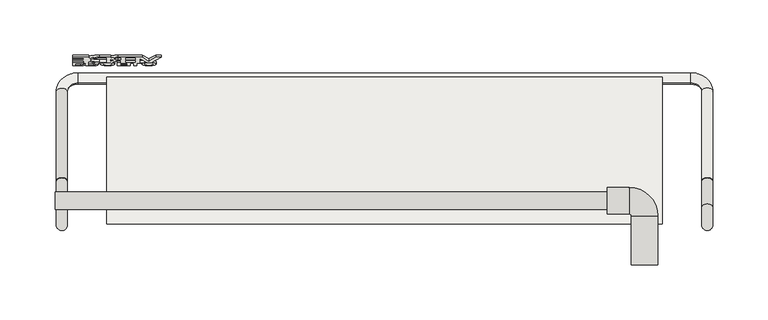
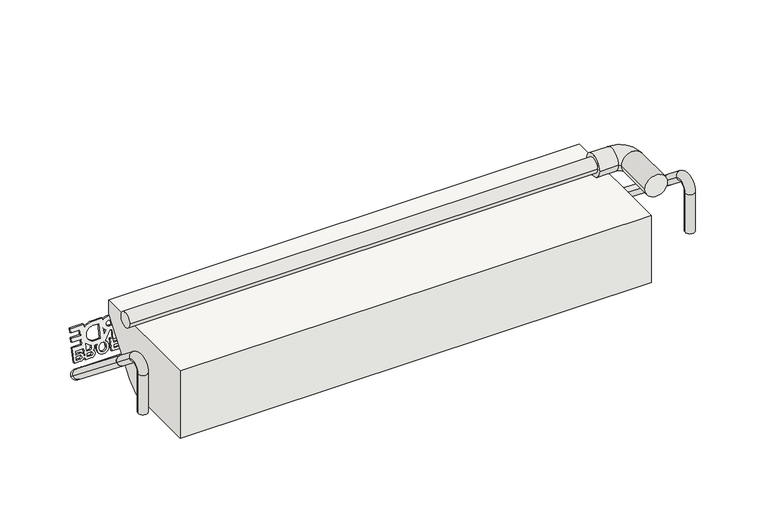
"""IFC4 building model written with IfcOpenShell, lengths in millimetres: covering geometry, panel VP Modulo prova ultima texture : panel VP Modulo prova ultima texture."""

from ifc_helpers import new_model, si_unit, point, frame, frame_2d, origin, place, context, project, spatial, polyline, circle_curve, ellipse_curve, trimmed, segment, composite_curve, outline, extrude, source, transform, mapped, element, save
from ifc_brep_helpers import plane_surface, cylinder_surface, revolved_surface, advanced_brep


def covering_791d1fb8(model_context):
    return source(origin(), model_context, "Body", "SolidModel", [
        extrude(outline(composite_curve([segment(polyline([(34.7220757, 1e-07), (58.7996812, 1e-07)]), True, "CONTINUOUS"), segment(trimmed(circle_curve(frame_2d((65.0642789, 0.6025231)), 6.293506), [point((58.7996812, 1e-07))], [point((63.4156114, 6.6762463))], False, "CARTESIAN"), True, "CONTINUOUS"), segment(trimmed(circle_curve(frame_2d((65.6666706, 0.6823429)), 6.4026671), [point((63.4156114, 6.6762463))], [point((68.2653756, -5.1692277))], False, "CARTESIAN"), True, "CONTINUOUS"), segment(trimmed(circle_curve(frame_2d((65.2033193, 0.2002614)), 6.1812298), [point((68.2653756, -5.1692277))], [point((64.2093266, -5.9005239))], False, "CARTESIAN"), True, "CONTINUOUS"), segment(polyline([(64.2093266, -5.9005239), (66.3168223, -11.0476864), (75.8016953, -7.1641235), (76.8622809, -9.7544045), (66.3136896, -14.0735049), (67.4636632, -16.8820993), (78.0122545, -12.5629989), (79.07284, -15.15328), (68.5242487, -19.4723803), (70.7348079, -24.8712558), (61.6931831, -28.5733316), (62.6270622, -30.8541559), (73.0748749, -33.0832315)]), True, "CONTINUOUS"), segment(trimmed(circle_curve(frame_2d((79.2445531, -34.0648778)), 6.247284), [point((73.0748749, -33.0832315))], [point((77.6263487, -28.0308102))], False, "CARTESIAN"), True, "CONTINUOUS"), segment(trimmed(circle_curve(frame_2d((79.8774079, -34.0247136)), 6.4026671), [point((77.6263487, -28.0308102))], [point((82.4790997, -39.8749568))], False, "CARTESIAN"), True, "CONTINUOUS"), segment(trimmed(circle_curve(frame_2d((79.4067188, -34.4842118)), 6.2048092), [point((82.4790997, -39.8749568))], [point((77.0112197, -40.2079554))], False, "CARTESIAN"), True, "CONTINUOUS"), segment(polyline([(77.0112197, -40.2079554), (78.1993614, -43.1097684)]), True, "CONTINUOUS"), segment(trimmed(circle_curve(frame_2d((66.5130173, -47.6019204)), 12.5199867), [point((78.1993614, -43.1097684))], [point((78.4709527, -43.8927629))], False, "CARTESIAN"), True, "CONTINUOUS"), segment(polyline([(78.4709527, -43.8927629), (79.5384706, -43.4513167)]), True, "CONTINUOUS"), segment(trimmed(circle_curve(frame_2d((81.1236563, -46.5289178)), 3.4618554), [point((79.5384706, -43.4513167))], [point((83.2640667, -43.8080566))], False, "CARTESIAN"), True, "CONTINUOUS"), segment(trimmed(circle_curve(frame_2d((86.9930545, -44.5041076)), 3.7933939), [point((83.2640667, -43.8080566))], [point((90.5427254, -43.1663205))], False, "CARTESIAN"), True, "CONTINUOUS"), segment(polyline([(90.5427254, -43.1663205), (93.2835773, -49.8603364), (82.734986, -54.1794368), (86.0955187, -62.3869066), (89.2825225, -61.0819941), (87.602256, -56.9782588)]), True, "CONTINUOUS"), segment(trimmed(circle_curve(frame_2d((91.2496311, -55.4763574)), 3.9444966), [point((87.602256, -56.9782588))], [point((87.6394876, -53.887044))], False, "CARTESIAN"), True, "CONTINUOUS"), segment(trimmed(circle_curve(frame_2d((91.0795376, -55.4029608)), 3.7592483), [point((87.6394876, -53.887044))], [point((89.8068057, -51.8657159))], False, "CARTESIAN"), True, "CONTINUOUS"), segment(trimmed(circle_curve(frame_2d((91.3826275, -55.3791794)), 3.8506675), [point((89.8068057, -51.8657159))], [point((94.9638436, -53.9640713))], False, "CARTESIAN"), True, "CONTINUOUS"), segment(polyline([(94.9638436, -53.9640713), (97.7046956, -60.6580873), (83.1186527, -66.6303144), (79.3291228, -57.3750995), (74.3249247, -59.4240587), (78.1144546, -68.6792737), (74.077003, -70.3324004), (70.2874731, -61.0771855), (65.283275, -63.1261447), (69.0728049, -72.3813597), (65.0353533, -74.0344865), (59.5536495, -60.6464545), (63.573194, -59.0006598)]), True, "CONTINUOUS"), segment(trimmed(circle_curve(frame_2d((67.4307018, -47.253167)), 12.364625), [point((63.573194, -59.0006598))], [point((55.9786182, -51.9151121))], False, "CARTESIAN"), True, "CONTINUOUS"), segment(polyline([(55.9786182, -51.9151121), (51.9745896, -42.1360244), (54.8949193, -40.940301)]), True, "CONTINUOUS"), segment(trimmed(circle_curve(frame_2d((56.8950264, -33.2916253)), 7.9058629), [point((54.8949193, -40.940301))], [point((49.6285766, -36.4063284))], False, "CARTESIAN"), True, "CONTINUOUS"), segment(polyline([(49.6285766, -36.4063284), (41.3068641, -16.0821087), (53.1289126, -4.45118), (36.5446028, -4.4511801), (34.7220757, 1e-07)]), True, "CONTINUOUS")], self_intersect=False), holes=[composite_curve([segment(polyline([(91.3698144, -60.2273564), (94.5568181, -58.9224439), (93.0429626, -55.2251362)]), True, "CONTINUOUS"), segment(trimmed(circle_curve(frame_2d((91.4494608, -55.8775924)), 1.7219023), [point((93.0429626, -55.2251362))], [point((89.8559588, -56.5300487))], True, "CARTESIAN"), True, "CONTINUOUS"), segment(polyline([(89.8559588, -56.5300487), (91.3698144, -60.2273564)]), True, "CONTINUOUS")], self_intersect=False), composite_curve([segment(polyline([(77.6536646, -53.2354383), (84.8614042, -50.2842432), (83.4804082, -46.9114198)]), True, "CONTINUOUS"), segment(trimmed(circle_curve(frame_2d((82.0055188, -47.9798171)), 1.8212006), [point((83.4804082, -46.9114198))], [point((81.4459172, -46.2467223))], True, "CARTESIAN"), True, "CONTINUOUS"), segment(polyline([(81.4459172, -46.2467223), (79.005401, -46.7813864)]), True, "CONTINUOUS"), segment(trimmed(circle_curve(frame_2d((66.800009, -47.5936694)), 12.2323913), [point((79.005401, -46.7813864))], [point((77.6536646, -53.2354383))], False, "CARTESIAN"), True, "CONTINUOUS")], self_intersect=False), composite_curve([segment(polyline([(80.0469884, -37.8463889), (81.818283, -37.1211357)]), True, "CONTINUOUS"), segment(trimmed(circle_curve(frame_2d((80.3714599, -33.822414)), 3.6020635), [point((81.818283, -37.1211357))], [point((79.0874461, -30.4569764))], True, "CARTESIAN"), True, "CONTINUOUS"), segment(polyline([(79.0874461, -30.4569764), (77.318043, -31.1814551)]), True, "CONTINUOUS"), segment(trimmed(circle_curve(frame_2d((78.7640582, -34.4805345)), 3.6020668), [point((77.318043, -31.1814551))], [point((80.0469884, -37.8463889))], True, "CARTESIAN"), True, "CONTINUOUS")], self_intersect=False), composite_curve([segment(polyline([(64.8767089, 4.25008), (63.1073057, 3.5256013)]), True, "CONTINUOUS"), segment(trimmed(circle_curve(frame_2d((64.5533209, 0.2265218)), 3.6020668), [point((63.1073057, 3.5256013))], [point((65.8362511, -3.1393325))], True, "CARTESIAN"), True, "CONTINUOUS"), segment(polyline([(65.8362511, -3.1393325), (67.6075457, -2.4140793)]), True, "CONTINUOUS"), segment(trimmed(circle_curve(frame_2d((66.1607226, 0.8846424)), 3.6020635), [point((67.6075457, -2.4140793))], [point((64.8767089, 4.25008))], True, "CARTESIAN"), True, "CONTINUOUS")], self_intersect=False), composite_curve([segment(polyline([(49.3862171, -14.3776131), (62.966359, -8.8172502), (61.7031824, -5.7321785), (62.543491, -5.3881158)]), True, "CONTINUOUS"), segment(trimmed(circle_curve(frame_2d((65.2914897, 0.489271)), 6.4880792), [point((62.543491, -5.3881158))], [point((60.2929855, -3.647168))], False, "CARTESIAN"), True, "CONTINUOUS"), segment(polyline([(60.2929855, -3.647168), (49.3862171, -14.3776131)]), True, "CONTINUOUS")], self_intersect=False), polyline([(47.5988019, -19.9351411), (50.9593346, -28.1426109), (55.9635327, -26.0936517), (52.603, -17.8861818), (47.5988019, -19.9351411)]), polyline([(60.0009843, -24.4405249), (65.0051824, -22.3915657), (61.6446497, -14.1840958), (56.6404516, -16.2330551), (60.0009843, -24.4405249)]), composite_curve([segment(polyline([(52.6514048, -32.2754702), (53.692025, -34.8169896)]), True, "CONTINUOUS"), segment(trimmed(circle_curve(frame_2d((56.226554, -33.8697215)), 2.7057631), [point((53.692025, -34.8169896))], [point((58.6823172, -32.7337722))], True, "CARTESIAN"), True, "CONTINUOUS"), segment(polyline([(58.6823172, -32.7337722), (57.6557066, -30.2264686), (52.6514048, -32.2754702)]), True, "CONTINUOUS")], self_intersect=False), composite_curve([segment(polyline([(62.0018449, -38.0303841), (66.4600603, -36.2049764), (63.0935891, -35.4866796)]), True, "CONTINUOUS"), segment(trimmed(circle_curve(frame_2d((53.8245828, -33.0146099)), 9.5929977), [point((63.0935891, -35.4866796))], [point((62.0018449, -38.0303841))], False, "CARTESIAN"), True, "CONTINUOUS")], self_intersect=False), composite_curve([segment(polyline([(57.7042151, -44.6157146), (60.0160697, -50.2619853)]), True, "CONTINUOUS"), segment(trimmed(circle_curve(frame_2d((67.1061304, -47.5504315)), 7.5908816), [point((60.0160697, -50.2619853))], [point((74.0619175, -44.51094))], True, "CARTESIAN"), True, "CONTINUOUS"), segment(polyline([(74.0619175, -44.51094), (71.7500629, -38.8646693), (57.7042151, -44.6157146)]), True, "CONTINUOUS")], self_intersect=False), composite_curve([segment(polyline([(86.9486961, -49.4296056), (90.1356999, -48.124693), (88.6218444, -44.4273853)]), True, "CONTINUOUS"), segment(trimmed(circle_curve(frame_2d((87.0283425, -45.0798416)), 1.7219023), [point((88.6218444, -44.4273853))], [point((85.4348406, -45.7322979))], True, "CARTESIAN"), True, "CONTINUOUS"), segment(polyline([(85.4348406, -45.7322979), (86.9486961, -49.4296056)]), True, "CONTINUOUS")], self_intersect=False)]), frame((-189.083657, 210.3688908, 531.9514609), z_axis=(0.0, -0.9769248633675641, 0.21358326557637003), x_axis=(-0.3789159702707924, -0.19765659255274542, -0.9040766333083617)), (0.0, 0.0, 1.0), 2.0),
        extrude(outline(polyline([(76.2116946, -23.2064962), (79.3986984, -21.9015837), (77.1881392, -16.5027082), (79.2754311, -15.6480706), (82.5465758, -23.6372272), (70.9744162, -28.3754256), (69.9138306, -25.7851445), (74.1244027, -24.0611338), (71.9138436, -18.6622584), (74.0011355, -17.8076208), (76.2116946, -23.2064962)])), frame((-189.083657, 210.3688908, 531.9514609), z_axis=(0.0, -0.9769248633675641, 0.21358326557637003), x_axis=(-0.3789159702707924, -0.19765659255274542, -0.9040766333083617)), (0.0, 0.0, 1.0), 2.0),
        advanced_brep(
        [(-298.2404059, 63.5015434, 595.6614448), (-298.2404059, 79.5015434, 595.6614448), (201.5404059, 63.5015434, 595.6614448), (201.5404059, 79.5015434, 595.6614448), (201.5404059, 59.5015434, 595.6614448), (201.5404059, 83.5015434, 595.6614448), (221.5404059, 59.5015434, 595.6614448), (221.5404059, 83.5015434, 595.6614448), (223.5404059, 57.5015434, 595.6614448), (247.5404059, 57.5015434, 595.6614448), (223.5404059, 13.5015434, 595.6614448), (247.5404059, 13.5015434, 595.6614448)],
        [
            (0, 1, circle_curve(frame((-298.2404059, 71.5015434, 595.6614448), z_axis=(-1.0, 0.0, 0.0), x_axis=(0.0, 1.0, 0.0)), 8.0)),
            (1, 0, circle_curve(frame((-298.2404059, 71.5015434, 595.6614448), z_axis=(-1.0, 0.0, 0.0), x_axis=(0.0, 1.0, 0.0)), 8.0)),
            (0, 2),
            (2, 3, circle_curve(frame((201.5404059, 71.5015434, 595.6614448), z_axis=(-1.0, 0.0, 0.0), x_axis=(0.0, 1.0, 0.0)), 8.0)),
            (3, 1),
            (3, 2, circle_curve(frame((201.5404059, 71.5015434, 595.6614448), z_axis=(-1.0, 0.0, 0.0), x_axis=(0.0, 1.0, 0.0)), 8.0)),
            (4, 5, circle_curve(frame((201.5404059, 71.5015434, 595.6614448), z_axis=(-1.0, 0.0, 0.0), x_axis=(0.0, 1.0, 0.0)), 12.0)),
            (5, 4, circle_curve(frame((201.5404059, 71.5015434, 595.6614448), z_axis=(-1.0, 0.0, 0.0), x_axis=(0.0, 1.0, 0.0)), 12.0)),
            (4, 6),
            (6, 7, circle_curve(frame((221.5404059, 71.5015434, 595.6614448), z_axis=(-1.0, 0.0, 0.0), x_axis=(0.0, 1.0, 0.0)), 12.0)),
            (7, 5),
            (7, 6, circle_curve(frame((221.5404059, 71.5015434, 595.6614448), z_axis=(-1.0, 0.0, 0.0), x_axis=(0.0, 1.0, 0.0)), 12.0)),
            (6, 8, circle_curve(frame((221.5404059, 57.5015434, 595.6614448), z_axis=(0.0, 0.0, -1.0), x_axis=(0.0, 1.0, 0.0)), 2.0)),
            (8, 9, circle_curve(frame((235.5404059, 57.5015434, 595.6614448), z_axis=(0.0, 1.0, 0.0), x_axis=(1.0, 0.0, 0.0)), 12.0)),
            (9, 7, circle_curve(frame((221.5404059, 57.5015434, 595.6614448), z_axis=(0.0, 0.0, 1.0), x_axis=(0.0, 1.0, 0.0)), 26.0)),
            (9, 8, circle_curve(frame((235.5404059, 57.5015434, 595.6614448), z_axis=(0.0, 1.0, 0.0), x_axis=(1.0, 0.0, 0.0)), 12.0)),
            (10, 11, circle_curve(frame((235.5404059, 13.5015434, 595.6614448), z_axis=(0.0, -1.0, 0.0), x_axis=(1.0, 0.0, 0.0)), 12.0)),
            (11, 10, circle_curve(frame((235.5404059, 13.5015434, 595.6614448), z_axis=(0.0, -1.0, 0.0), x_axis=(1.0, 0.0, 0.0)), 12.0)),
            (8, 10),
            (11, 9),
        ],
        [
            plane_surface(frame((-298.2404059, 63.5015434, 595.6614448), z_axis=(-1.0, 0.0, 0.0), x_axis=(0.0, 0.0, 1.0))),
            cylinder_surface(frame((-298.2404059, 71.5015434, 595.6614448), z_axis=(-1.0, 0.0, 0.0), x_axis=(0.0, 1.0, 0.0)), 8.0),
            plane_surface(frame((201.5404059, 63.5015434, 595.6614448), z_axis=(-1.0, 0.0, 0.0), x_axis=(0.0, 0.0, 1.0))),
            cylinder_surface(frame((201.5404059, 71.5015434, 595.6614448), z_axis=(-1.0, 0.0, 0.0), x_axis=(0.0, 1.0, 0.0)), 12.0),
            revolved_surface(trimmed(ellipse_curve(frame((221.5404059, 71.5015434, 595.6614448), z_axis=(-1.0, 0.0, 0.0), x_axis=(0.0, 1.0, 0.0)), 12.0, 12.0), [point((221.5404059, 59.5015434, 595.6614448))], [point((221.5404059, 83.5015434, 595.6614448))], True, "CARTESIAN"), (221.5404059, 57.5015434, 595.6614448), (0.0, 0.0, -1.0)),
            revolved_surface(trimmed(ellipse_curve(frame((221.5404059, 71.5015434, 595.6614448), z_axis=(-1.0, 0.0, 0.0), x_axis=(0.0, 1.0, 0.0)), 12.0, 12.0), [point((221.5404059, 83.5015434, 595.6614448))], [point((221.5404059, 59.5015434, 595.6614448))], True, "CARTESIAN"), (221.5404059, 57.5015434, 595.6614448), (0.0, 0.0, -1.0)),
            plane_surface(frame((227.5404059, 13.5015434, 595.6614448), z_axis=(0.0, -1.0, 0.0), x_axis=(0.0, 0.0, 1.0))),
            cylinder_surface(frame((235.5404059, 57.5015434, 595.6614448), z_axis=(0.0, 1.0, 0.0), x_axis=(1.0, 0.0, 0.0)), 12.0),
        ],
        [
            (0, [[1, 2]]),
            (1, [[-1, 3, 4, 5]]),
            (1, [[-2, -5, 6, -3]]),
            (2, [[7, 8], [-4, -6]]),
            (3, [[-7, 9, 10, 11]]),
            (3, [[-8, -11, 12, -9]]),
            (4, [[-10, 13, 14, 15]]),
            (5, [[-12, -15, 16, -13]]),
            (6, [[17, 18]]),
            (7, [[-14, 19, -18, 20]]),
            (7, [[-16, -20, -17, -19]]),
        ],
    ),
        advanced_brep(
        [(297.2404059, 89.2250572, 536.4633866), (287.2404059, 89.2251428, 536.4634946), (297.2404059, 170.6491384, 471.9435416), (287.2404059, 170.6492239, 471.9436496), (277.2404059, 178.4869122, 465.7331229), (277.2404059, 186.324515, 459.5224882), (-277.2404059, 186.324515, 459.5224882), (-277.2404059, 178.4869122, 465.7331229), (-287.2404059, 170.6492239, 471.9436496), (-297.2404059, 170.6491384, 471.9435416), (-297.2404059, 89.2250494, 536.4633928), (-287.2404059, 89.225135, 536.4635008)],
        [
            (0, 1, circle_curve(frame((292.2404059, 89.2250572, 536.4633866), z_axis=(0.0, -0.7837688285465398, 0.6210526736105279), x_axis=(1.0, 0.0, 0.0)), 5.0)),
            (1, 0, circle_curve(frame((292.2404059, 89.2250572, 536.4633866), z_axis=(0.0, -0.7837688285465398, 0.6210526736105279), x_axis=(1.0, 0.0, 0.0)), 5.0)),
            (0, 2),
            (2, 3, circle_curve(frame((292.2404059, 170.6491384, 471.9435416), z_axis=(0.0, -0.7837688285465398, 0.6210526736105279), x_axis=(1.0, 0.0, 0.0)), 5.0)),
            (3, 1),
            (3, 2, circle_curve(frame((292.2404059, 170.6491384, 471.9435416), z_axis=(0.0, -0.7837688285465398, 0.6210526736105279), x_axis=(1.0, 0.0, 0.0)), 5.0)),
            (4, 3, circle_curve(frame((277.2404059, 170.6492239, 471.9436496), z_axis=(0.0, -0.6210526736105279, -0.7837688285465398), x_axis=(1.0, 0.0, 0.0)), 10.0)),
            (2, 5, circle_curve(frame((277.2404059, 170.6491384, 471.9435416), z_axis=(0.0, 0.6210526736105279, 0.7837688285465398), x_axis=(1.0, 0.0, 0.0)), 20.0)),
            (5, 4, circle_curve(frame((277.2404059, 182.4056708, 462.6277515), z_axis=(1.0, 0.0, 0.0), x_axis=(0.0, 0.7837688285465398, -0.6210526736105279)), 5.0)),
            (4, 5, circle_curve(frame((277.2404059, 182.4056708, 462.6277515), z_axis=(1.0, 0.0, 0.0), x_axis=(0.0, 0.7837688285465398, -0.6210526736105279)), 5.0)),
            (5, 6),
            (6, 7, circle_curve(frame((-277.2404059, 182.4056708, 462.6277515), z_axis=(1.0, 0.0, 0.0), x_axis=(0.0, 0.7837688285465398, -0.6210526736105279)), 5.0)),
            (7, 4),
            (7, 6, circle_curve(frame((-277.2404059, 182.4056708, 462.6277515), z_axis=(1.0, 0.0, 0.0), x_axis=(0.0, 0.7837688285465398, -0.6210526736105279)), 5.0)),
            (8, 7, circle_curve(frame((-277.2404059, 170.6492239, 471.9436496), z_axis=(0.0, -0.6210526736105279, -0.7837688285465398), x_axis=(0.0, 0.7837688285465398, -0.6210526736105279)), 10.0)),
            (6, 9, circle_curve(frame((-277.2404059, 170.6491384, 471.9435416), z_axis=(0.0, 0.6210526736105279, 0.7837688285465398), x_axis=(0.0, 0.7837688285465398, -0.6210526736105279)), 20.0)),
            (9, 8, circle_curve(frame((-292.2404059, 170.6491384, 471.9435416), z_axis=(0.0, 0.7837688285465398, -0.6210526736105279), x_axis=(-1.0000000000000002, 0.0, 0.0)), 5.0)),
            (8, 9, circle_curve(frame((-292.2404059, 170.6491384, 471.9435416), z_axis=(0.0, 0.7837688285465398, -0.6210526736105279), x_axis=(-1.0000000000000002, 0.0, 0.0)), 5.0)),
            (10, 11, circle_curve(frame((-292.2404059, 89.2250494, 536.4633928), z_axis=(0.0, -0.7837688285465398, 0.6210526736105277), x_axis=(-1.0, 0.0, 0.0)), 5.0)),
            (11, 10, circle_curve(frame((-292.2404059, 89.2250494, 536.4633928), z_axis=(0.0, -0.7837688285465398, 0.6210526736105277), x_axis=(-1.0, 0.0, 0.0)), 5.0)),
            (9, 10),
            (11, 8),
        ],
        [
            plane_surface(frame((287.2404059, 92.3304015, 540.3823329), z_axis=(0.0, -0.7837688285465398, 0.6210526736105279), x_axis=(0.0, -0.6210526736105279, -0.7837688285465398))),
            cylinder_surface(frame((292.2404059, 89.2250572, 536.4633866), z_axis=(0.0, -0.7837688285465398, 0.6210526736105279), x_axis=(1.0, 0.0, 0.0)), 5.0),
            revolved_surface(trimmed(ellipse_curve(frame((292.2404059, 170.6491384, 471.9435416), z_axis=(0.0, -0.7837688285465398, 0.6210526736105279), x_axis=(1.0, 0.0, 0.0)), 5.0, 5.0), [point((297.2404059, 170.6491384, 471.9435416))], [point((287.2404059, 170.6492239, 471.9436496))], True, "CARTESIAN"), (277.2404059, 173.7544827, 475.8624879), (0.0, 0.6210526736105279, 0.7837688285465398)),
            revolved_surface(trimmed(ellipse_curve(frame((292.2404059, 170.6491384, 471.9435416), z_axis=(0.0, -0.7837688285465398, 0.6210526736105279), x_axis=(1.0, 0.0, 0.0)), 5.0, 5.0), [point((287.2404059, 170.6492239, 471.9436496))], [point((297.2404059, 170.6491384, 471.9435416))], True, "CARTESIAN"), (277.2404059, 173.7544827, 475.8624879), (0.0, 0.6210526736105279, 0.7837688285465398)),
            cylinder_surface(frame((277.2404059, 182.4056708, 462.6277515), z_axis=(1.0000000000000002, 0.0, 0.0), x_axis=(0.0, 0.7837688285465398, -0.6210526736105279)), 5.0),
            revolved_surface(trimmed(ellipse_curve(frame((-277.2404059, 182.4056708, 462.6277515), z_axis=(1.0000000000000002, 0.0, 0.0), x_axis=(0.0, 0.7837688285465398, -0.6210526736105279)), 5.0, 5.0), [point((-277.2404059, 186.324515, 459.5224882))], [point((-277.2404059, 178.4869122, 465.7331229))], True, "CARTESIAN"), (-277.2404059, 173.7544827, 475.8624879), (0.0, 0.6210526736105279, 0.7837688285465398)),
            revolved_surface(trimmed(ellipse_curve(frame((-277.2404059, 182.4056708, 462.6277515), z_axis=(1.0000000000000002, 0.0, 0.0), x_axis=(0.0, 0.7837688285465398, -0.6210526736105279)), 5.0, 5.0), [point((-277.2404059, 178.4869122, 465.7331229))], [point((-277.2404059, 186.324515, 459.5224882))], True, "CARTESIAN"), (-277.2404059, 173.7544827, 475.8624879), (0.0, 0.6210526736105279, 0.7837688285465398)),
            plane_surface(frame((-287.2404059, 92.3303937, 540.3823391), z_axis=(0.0, -0.7837688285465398, 0.6210526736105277), x_axis=(0.0, -0.6210526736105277, -0.7837688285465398))),
            cylinder_surface(frame((-292.2404059, 170.6491384, 471.9435416), z_axis=(0.0, 0.7837688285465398, -0.6210526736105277), x_axis=(-1.0, 0.0, 0.0)), 5.0),
        ],
        [
            (0, [[1, 2]]),
            (1, [[-1, 3, 4, 5]]),
            (1, [[-2, -5, 6, -3]]),
            (2, [[7, -4, 8, 9]]),
            (3, [[-8, -6, -7, 10]]),
            (4, [[-9, 11, 12, 13]]),
            (4, [[-10, -13, 14, -11]]),
            (5, [[15, -12, 16, 17]]),
            (6, [[-16, -14, -15, 18]]),
            (7, [[19, 20]]),
            (8, [[-17, 21, -20, 22]]),
            (8, [[-18, -22, -19, -21]]),
        ],
    ),
        advanced_brep(
        [(-287.2404059, 89.225135, 536.4635008), (-297.2404059, 89.225135, 536.4635008), (-297.2404059, 65.7120701, 555.095081), (-287.2404059, 65.7120701, 555.095081), (-287.2404059, 49.5015434, 547.2573927), (-297.2404059, 49.5015434, 547.2573927), (-287.2404059, 49.5015434, 502.9552474), (-297.2404059, 49.5015434, 502.9552474)],
        [
            (0, 1, circle_curve(frame((-292.2404059, 89.225135, 536.4635008), z_axis=(0.0, 0.7837688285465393, -0.6210526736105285), x_axis=(-1.0, 0.0, 0.0)), 5.0)),
            (1, 0, circle_curve(frame((-292.2404059, 89.225135, 536.4635008), z_axis=(0.0, 0.7837688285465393, -0.6210526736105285), x_axis=(-1.0, 0.0, 0.0)), 5.0)),
            (1, 2),
            (2, 3, circle_curve(frame((-292.2404059, 65.7120701, 555.095081), z_axis=(0.0, 0.7837688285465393, -0.6210526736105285), x_axis=(-1.0, 0.0, 0.0)), 5.0)),
            (3, 0),
            (3, 2, circle_curve(frame((-292.2404059, 65.7120701, 555.095081), z_axis=(0.0, 0.7837688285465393, -0.6210526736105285), x_axis=(-1.0, 0.0, 0.0)), 5.0)),
            (4, 3, circle_curve(frame((-287.2404059, 59.5015434, 547.2573927), z_axis=(-1.0, 0.0, 0.0), x_axis=(0.0, 0.6210526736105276, 0.78376882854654)), 10.0)),
            (2, 5, circle_curve(frame((-297.2404059, 59.5015434, 547.2573927), z_axis=(1.0, 0.0, 0.0), x_axis=(0.0, 0.6210526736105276, 0.78376882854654)), 10.0)),
            (5, 4, circle_curve(frame((-292.2404059, 49.5015434, 547.2573927), z_axis=(0.0, 0.0, 1.0), x_axis=(-1.0, 0.0, 0.0)), 5.0)),
            (4, 5, circle_curve(frame((-292.2404059, 49.5015434, 547.2573927), z_axis=(0.0, 0.0, 1.0), x_axis=(-1.0, 0.0, 0.0)), 5.0)),
            (6, 7, circle_curve(frame((-292.2404059, 49.5015434, 502.9552474), z_axis=(0.0, 0.0, -1.0), x_axis=(-1.0, 0.0, 0.0)), 5.0)),
            (7, 6, circle_curve(frame((-292.2404059, 49.5015434, 502.9552474), z_axis=(0.0, 0.0, -1.0), x_axis=(-1.0, 0.0, 0.0)), 5.0)),
            (5, 7),
            (6, 4),
        ],
        [
            plane_surface(frame((-287.2404059, 89.225135, 536.4635008), z_axis=(0.0, 0.7837688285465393, -0.6210526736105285), x_axis=(-1.0, 0.0, 0.0))),
            cylinder_surface(frame((-292.2404059, 89.225135, 536.4635008), z_axis=(0.0, 0.7837688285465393, -0.6210526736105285), x_axis=(-1.0, 0.0, 0.0)), 5.0),
            revolved_surface(trimmed(ellipse_curve(frame((-292.2404059, 65.7120701, 555.095081), z_axis=(0.0, 0.78376882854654, -0.6210526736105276), x_axis=(-1.0, 0.0, 0.0)), 5.0, 5.0), [point((-297.2404059, 65.7120701, 555.095081))], [point((-287.2404059, 65.7120701, 555.095081))], True, "CARTESIAN"), (-287.2404059, 59.5015434, 547.2573927), (1.0, 0.0, 0.0)),
            revolved_surface(trimmed(ellipse_curve(frame((-292.2404059, 65.7120701, 555.095081), z_axis=(0.0, 0.78376882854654, -0.6210526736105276), x_axis=(-1.0, 0.0, 0.0)), 5.0, 5.0), [point((-287.2404059, 65.7120701, 555.095081))], [point((-297.2404059, 65.7120701, 555.095081))], True, "CARTESIAN"), (-287.2404059, 59.5015434, 547.2573927), (1.0, 0.0, 0.0)),
            plane_surface(frame((-287.2404059, 49.5015434, 502.9552474), z_axis=(0.0, 0.0, -1.0), x_axis=(-1.0, 0.0, 0.0))),
            cylinder_surface(frame((-292.2404059, 49.5015434, 547.2573927), z_axis=(0.0, 0.0, 1.0), x_axis=(-1.0, 0.0, 0.0)), 5.0),
        ],
        [
            (0, [[1, 2]]),
            (1, [[-2, 3, 4, 5]]),
            (1, [[-1, -5, 6, -3]]),
            (2, [[7, -4, 8, 9]]),
            (3, [[-8, -6, -7, 10]]),
            (4, [[11, 12]]),
            (5, [[-9, 13, -11, 14]]),
            (5, [[-10, -14, -12, -13]]),
        ],
    ),
        advanced_brep(
        [(287.2404059, 89.2251242, 536.4634711), (297.2404059, 89.2251242, 536.4634711), (287.2404059, 65.7120779, 555.0950748), (297.2404059, 65.7120779, 555.0950748), (297.2404059, 49.5015434, 547.2573927), (287.2404059, 49.5015434, 547.2573927), (287.2404059, 49.5015434, 502.9552474), (297.2404059, 49.5015434, 502.9552474)],
        [
            (0, 1, circle_curve(frame((292.2404059, 89.2251242, 536.4634711), z_axis=(0.0, 0.7837682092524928, -0.621053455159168), x_axis=(1.0, 0.0, 0.0)), 5.0)),
            (1, 0, circle_curve(frame((292.2404059, 89.2251242, 536.4634711), z_axis=(0.0, 0.7837682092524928, -0.621053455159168), x_axis=(1.0, 0.0, 0.0)), 5.0)),
            (0, 2),
            (2, 3, circle_curve(frame((292.2404059, 65.7120779, 555.0950748), z_axis=(0.0, 0.7837682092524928, -0.621053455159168), x_axis=(1.0, 0.0, 0.0)), 5.0)),
            (3, 1),
            (3, 2, circle_curve(frame((292.2404059, 65.7120779, 555.0950748), z_axis=(0.0, 0.7837682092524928, -0.621053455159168), x_axis=(1.0, 0.0, 0.0)), 5.0)),
            (4, 3, circle_curve(frame((297.2404059, 59.5015434, 547.2573927), z_axis=(-1.0, 0.0, 0.0), x_axis=(0.0, 0.6210534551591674, 0.7837682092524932)), 10.0)),
            (2, 5, circle_curve(frame((287.2404059, 59.5015434, 547.2573927), z_axis=(1.0, 0.0, 0.0), x_axis=(0.0, 0.6210534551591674, 0.7837682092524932)), 10.0)),
            (5, 4, circle_curve(frame((292.2404059, 49.5015434, 547.2573927), z_axis=(0.0, 0.0, 1.0), x_axis=(1.0, 0.0, 0.0)), 5.0)),
            (4, 5, circle_curve(frame((292.2404059, 49.5015434, 547.2573927), z_axis=(0.0, 0.0, 1.0), x_axis=(1.0, 0.0, 0.0)), 5.0)),
            (6, 7, circle_curve(frame((292.2404059, 49.5015434, 502.9552474), z_axis=(0.0, 0.0, -1.0), x_axis=(1.0, 0.0, 0.0)), 5.0)),
            (7, 6, circle_curve(frame((292.2404059, 49.5015434, 502.9552474), z_axis=(0.0, 0.0, -1.0), x_axis=(1.0, 0.0, 0.0)), 5.0)),
            (5, 6),
            (7, 4),
        ],
        [
            plane_surface(frame((287.2404059, 89.2251242, 536.4634711), z_axis=(0.0, 0.7837682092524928, -0.621053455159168), x_axis=(1.0, 0.0, 0.0))),
            cylinder_surface(frame((292.2404059, 89.2251242, 536.4634711), z_axis=(0.0, 0.7837682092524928, -0.621053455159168), x_axis=(1.0, 0.0, 0.0)), 5.0),
            revolved_surface(trimmed(ellipse_curve(frame((292.2404059, 65.7120779, 555.0950748), z_axis=(0.0, 0.7837682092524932, -0.6210534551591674), x_axis=(1.0, 0.0, 0.0)), 5.0, 5.0), [point((287.2404059, 65.7120779, 555.0950748))], [point((297.2404059, 65.7120779, 555.0950748))], True, "CARTESIAN"), (287.2404059, 59.5015434, 547.2573927), (1.0, 0.0, 0.0)),
            revolved_surface(trimmed(ellipse_curve(frame((292.2404059, 65.7120779, 555.0950748), z_axis=(0.0, 0.7837682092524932, -0.6210534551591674), x_axis=(1.0, 0.0, 0.0)), 5.0, 5.0), [point((297.2404059, 65.7120779, 555.0950748))], [point((287.2404059, 65.7120779, 555.0950748))], True, "CARTESIAN"), (287.2404059, 59.5015434, 547.2573927), (1.0, 0.0, 0.0)),
            plane_surface(frame((287.2404059, 49.5015434, 502.9552474), z_axis=(0.0, 0.0, -1.0), x_axis=(1.0, 0.0, 0.0))),
            cylinder_surface(frame((292.2404059, 49.5015434, 547.2573927), z_axis=(0.0, 0.0, 1.0), x_axis=(1.0, 0.0, 0.0)), 5.0),
        ],
        [
            (0, [[1, 2]]),
            (1, [[-1, 3, 4, 5]]),
            (1, [[-2, -5, 6, -3]]),
            (2, [[7, -4, 8, 9]]),
            (3, [[-8, -6, -7, 10]]),
            (4, [[11, 12]]),
            (5, [[-9, 13, -12, 14]]),
            (5, [[-10, -14, -11, -13]]),
        ],
    ),
        extrude(outline(polyline([(132.1625373, 458.0017812), (50.5015434, 458.0017812), (50.5015434, 534.0017812), (183.4941844, 534.0017812), (183.4941844, 518.335058), (143.8388149, 468.2899627), (132.1625373, 458.0017812)])), frame((-251.5404059, 0.0, 0.0), z_axis=(1.0, 0.0, 0.0), x_axis=(0.0, 1.0, 0.0)), (0.0, 0.0, 1.0), 503.0808119),
    ])


if __name__ == "__main__":
    model = new_model("IFC4")
    model_context = context("Model", 3, world=origin())
    ifc_project = project(units=[si_unit("LENGTHUNIT", "METRE", prefix="MILLI")], contexts=[model_context])
    site = spatial("IfcSite", under=ifc_project)
    building = spatial("IfcBuilding", under=site)
    placement = place(None, origin())
    covering_shape = covering_791d1fb8(model_context)
    element("IfcCovering", 1, ObjectType="panel VP Modulo prova ultima texture : panel VP Modulo prova ultima texture", at=placement, inside=building, context=model_context, shape_type="MappedRepresentation", body=[
        mapped(covering_shape, transform((0.0, 0.0, 0.0), x_axis=(1.0, 0.0, 0.0), y_axis=(0.0, 1.0, 0.0), z_axis=(0.0, 0.0, 1.0))),
    ])
    save(model, "model.ifc")
